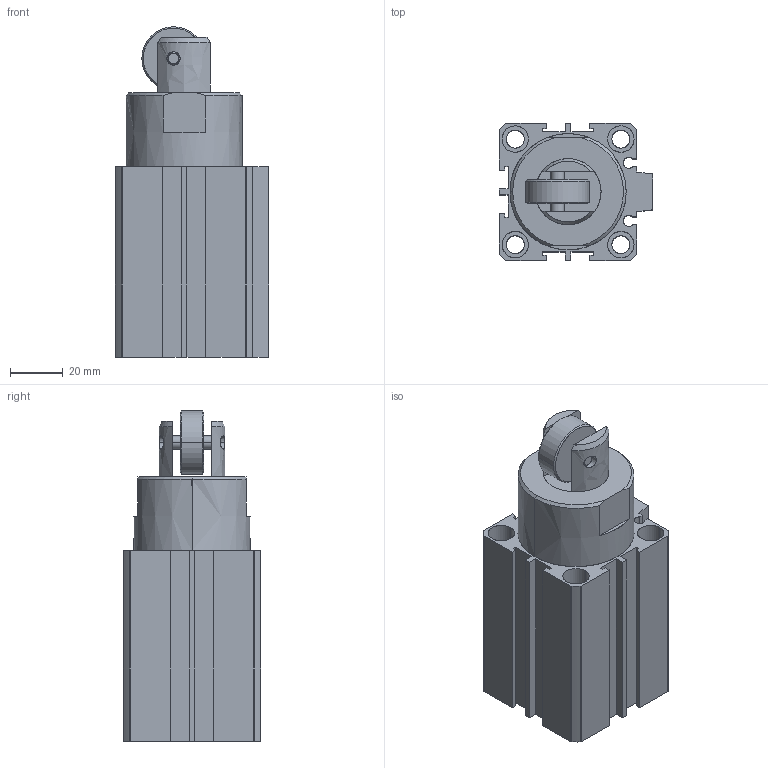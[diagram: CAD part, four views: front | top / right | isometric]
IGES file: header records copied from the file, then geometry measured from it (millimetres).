
Start section: SolidWorks IGES file using analytic representation for surfaces
Global section: file name: C:\Documents and Settings\admin\Bureau\stage de yaya\Plan Philippe Pince\PINCE\VUSB\pièces en 3D\VUSB STEP\ELOC-3DWG\ELOC-40-20 TIGE ENTREE.IGS; native system: SolidWorks 2007; preprocessor: SolidWorks 2007; author: admin; date: 080328.085617; units: millimetre
Bounding box: 58 x 52 x 125.2 mm (x, y, z)
Surface area: 53549.6 mm2 (no closed solid volume)
Topology: 0 solids, 0 shells, 848 faces, 10538 edges, 10576 vertices
Faces by surface type: bspline 775, revolution 73
